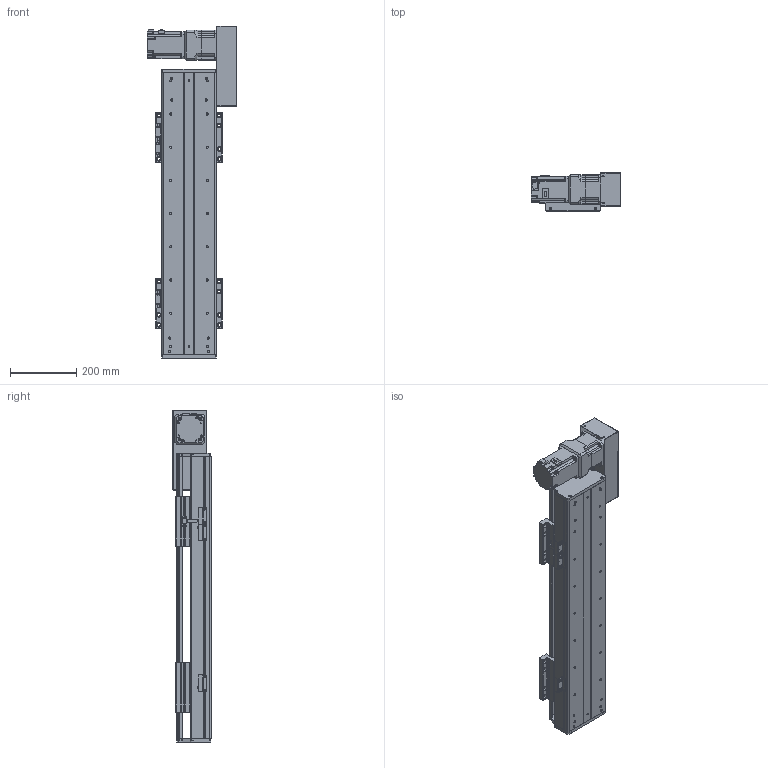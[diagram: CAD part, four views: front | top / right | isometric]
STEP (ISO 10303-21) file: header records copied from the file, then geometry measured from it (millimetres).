
FILE_DESCRIPTION(/* description */ (''),/* implementation_level */ '2;1');
FILE_NAME(/* name */ 'C:\Users\PC\Desktop\3D도면\STEP\DSB165-R7G-W0500-L.stp',/* time_stamp */ '2018-06-25T14:36:52+09:00',/* author */ ('PC'),/* organization */ (''),/* preprocessor_version */ 'ST-DEVELOPER v16.5',/* originating_system */ 'Autodesk Inventor 2017',/* authorisation */ '');
FILE_SCHEMA (('AUTOMOTIVE_DESIGN { 1 0 10303 214 3 1 1 }'));
Length unit declared in the file: millimetre
Products named in the file (12): DSB165-L7G-W0500-R_MIR; DSB165-BASE-L_MIR; hg-kr73__MIR; ab0901-p0401300102_MIR; 11-DSB165 BELT COVER_MIR; 12-DSB165-REAR COVER_MIR; 14-DSB165-FRONT COVER_MIR; DSB165-UP COVER_MIR; DSB165-TABLE(MSB20S)_MIR; DSR165-SENSOR DOG_MIR; pm-y65_step_MIR; SENSOR BRACKET(EE-SX674A)_MIR
Assembly tree (16 placements, depth 2):
  DSB165-L7G-W0500-R_MIR
    DSB165-BASE-L_MIR
    hg-kr73__MIR
    ab0901-p0401300102_MIR
    11-DSB165 BELT COVER_MIR
    12-DSB165-REAR COVER_MIR
    14-DSB165-FRONT COVER_MIR
    DSB165-UP COVER_MIR
    DSB165-TABLE(MSB20S)_MIR  x2
    DSR165-SENSOR DOG_MIR
    pm-y65_step_MIR  x3
    SENSOR BRACKET(EE-SX674A)_MIR  x3
Bounding box: 270 x 115 x 1000 mm (x, y, z)
Volume: 6581578.7 mm3; surface area: 1510292.1 mm2
Topology: 17 solids, 17 shells, 1649 faces, 4436 edges, 2926 vertices
Faces by surface type: plane 921, cylinder 610, cone 106, sphere 8, torus 4
Full cylindrical faces by diameter (mm): 2.459 x20, 3.5 x6, 4.134 x42, 4.5 x18, 5 x27, 5.5 x36, 5.9 x4, 6 x4, 6.6 x14, 6.647 x34, 6.8 x1, 7 x4, 7.6 x4, 8.4 x1, 8.5 x24, 8.7 x1, 9.5 x32, 11 x6, 14 x16, 19 x1, 22 x1, 24 x1, 25 x1, 28 x1, 67 x1, 70 x2, 80 x1
Entity records: 35752 total; most frequent: DIRECTION 6186, CARTESIAN_POINT 6015, ORIENTED_EDGE 5498, EDGE_CURVE 2749, AXIS2_PLACEMENT_3D 2263, VERTEX_POINT 1954, EDGE_LOOP 1695, LINE 1660
